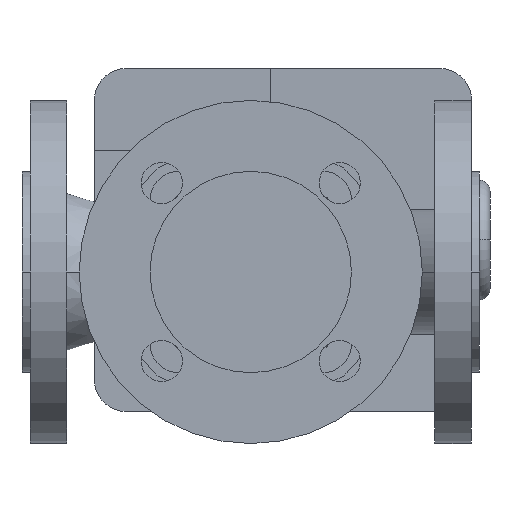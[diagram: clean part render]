
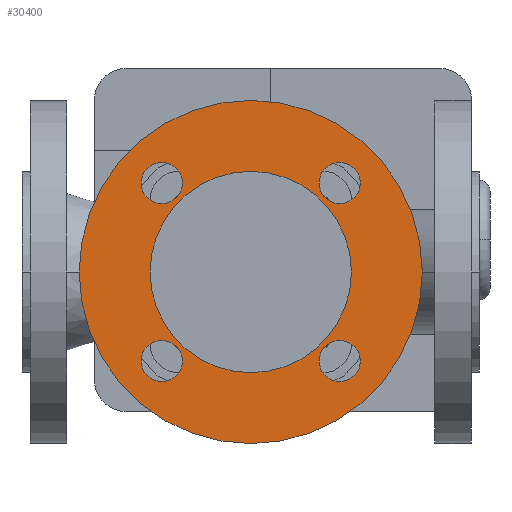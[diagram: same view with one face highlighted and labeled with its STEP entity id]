
A CAD part, front view. The second image highlights one B-rep face of the part: STEP entity #30400.
In plain terms, the highlighted planar face has unit normal (0, -1, 0).
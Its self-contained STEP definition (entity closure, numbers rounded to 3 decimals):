
#5250=CARTESIAN_POINT('',(56.,-86.5,0.));
#5260=VERTEX_POINT('',#5250);
#5310=CARTESIAN_POINT('',(100.,-86.5,0.));
#5320=DIRECTION('',(0.,-1.,0.));
#5330=DIRECTION('',(1.,0.,0.));
#5340=AXIS2_PLACEMENT_3D('',#5310,#5320,#5330);
#5350=CIRCLE('',#5340,44.);
#5360=CARTESIAN_POINT('',(144.,-86.5,0.));
#5370=VERTEX_POINT('',#5360);
#5380=EDGE_CURVE('',#5370,#5260,#5350,.T.);
#5690=CARTESIAN_POINT('',(175.,-86.5,0.));
#5700=VERTEX_POINT('',#5690);
#5730=CARTESIAN_POINT('',(100.,-86.5,0.));
#5740=DIRECTION('',(0.,1.,0.));
#5750=DIRECTION('',(1.,0.,0.));
#5760=AXIS2_PLACEMENT_3D('',#5730,#5740,#5750);
#5770=CIRCLE('',#5760,75.);
#5780=CARTESIAN_POINT('',(25.,-86.5,0.));
#5790=VERTEX_POINT('',#5780);
#5800=EDGE_CURVE('',#5790,#5700,#5770,.T.);
#6110=CARTESIAN_POINT('',(147.891,-86.5,-38.891));
#6120=VERTEX_POINT('',#6110);
#6280=CARTESIAN_POINT('',(129.891,-86.5,-38.891));
#6290=VERTEX_POINT('',#6280);
#6320=CARTESIAN_POINT('',(138.891,-86.5,-38.891));
#6330=DIRECTION('',(0.,1.,0.));
#6340=DIRECTION('',(1.,0.,0.));
#6350=AXIS2_PLACEMENT_3D('',#6320,#6330,#6340);
#6360=CIRCLE('',#6350,9.);
#6370=EDGE_CURVE('',#6290,#6120,#6360,.T.);
#6530=CARTESIAN_POINT('',(129.891,-86.5,38.891));
#6540=VERTEX_POINT('',#6530);
#6700=CARTESIAN_POINT('',(147.891,-86.5,38.891));
#6710=VERTEX_POINT('',#6700);
#6740=CARTESIAN_POINT('',(138.891,-86.5,38.891));
#6750=DIRECTION('',(0.,1.,0.));
#6760=DIRECTION('',(1.,0.,0.));
#6770=AXIS2_PLACEMENT_3D('',#6740,#6750,#6760);
#6780=CIRCLE('',#6770,9.);
#6790=EDGE_CURVE('',#6710,#6540,#6780,.T.);
#6950=CARTESIAN_POINT('',(52.109,-86.5,-38.891));
#6960=VERTEX_POINT('',#6950);
#7120=CARTESIAN_POINT('',(70.109,-86.5,-38.891));
#7130=VERTEX_POINT('',#7120);
#7160=CARTESIAN_POINT('',(61.109,-86.5,-38.891));
#7170=DIRECTION('',(0.,1.,0.));
#7180=DIRECTION('',(1.,0.,0.));
#7190=AXIS2_PLACEMENT_3D('',#7160,#7170,#7180);
#7200=CIRCLE('',#7190,9.);
#7210=EDGE_CURVE('',#7130,#6960,#7200,.T.);
#7370=CARTESIAN_POINT('',(70.109,-86.5,38.891));
#7380=VERTEX_POINT('',#7370);
#7410=CARTESIAN_POINT('',(61.109,-86.5,38.891));
#7420=DIRECTION('',(0.,1.,0.));
#7430=DIRECTION('',(1.,0.,0.));
#7440=AXIS2_PLACEMENT_3D('',#7410,#7420,#7430);
#7450=CIRCLE('',#7440,9.);
#7460=CARTESIAN_POINT('',(52.109,-86.5,38.891));
#7470=VERTEX_POINT('',#7460);
#7480=EDGE_CURVE('',#7380,#7470,#7450,.T.);
#30050=CARTESIAN_POINT('',(100.,-86.5,0.));
#30060=DIRECTION('',(0.,1.,0.));
#30070=DIRECTION('',(0.,0.,1.));
#30080=AXIS2_PLACEMENT_3D('',#30050,#30060,#30070);
#30090=PLANE('',#30080);
#30100=EDGE_CURVE('',#7470,#7380,#7450,.T.);
#30110=ORIENTED_EDGE('',*,*,#30100,.T.);
#30120=ORIENTED_EDGE('',*,*,#7480,.T.);
#30130=EDGE_LOOP('',(#30120,#30110));
#30140=FACE_BOUND('',#30130,.T.);
#30150=EDGE_CURVE('',#6960,#7130,#7200,.T.);
#30160=ORIENTED_EDGE('',*,*,#30150,.T.);
#30170=ORIENTED_EDGE('',*,*,#7210,.T.);
#30180=EDGE_LOOP('',(#30170,#30160));
#30190=FACE_BOUND('',#30180,.T.);
#30200=EDGE_CURVE('',#6540,#6710,#6780,.T.);
#30210=ORIENTED_EDGE('',*,*,#30200,.T.);
#30220=ORIENTED_EDGE('',*,*,#6790,.T.);
#30230=EDGE_LOOP('',(#30220,#30210));
#30240=FACE_BOUND('',#30230,.T.);
#30250=EDGE_CURVE('',#6120,#6290,#6360,.T.);
#30260=ORIENTED_EDGE('',*,*,#30250,.T.);
#30270=ORIENTED_EDGE('',*,*,#6370,.T.);
#30280=EDGE_LOOP('',(#30270,#30260));
#30290=FACE_BOUND('',#30280,.T.);
#30300=ORIENTED_EDGE('',*,*,#5800,.F.);
#30310=EDGE_CURVE('',#5700,#5790,#5770,.T.);
#30320=ORIENTED_EDGE('',*,*,#30310,.F.);
#30330=EDGE_LOOP('',(#30320,#30300));
#30340=FACE_OUTER_BOUND('',#30330,.T.);
#30350=EDGE_CURVE('',#5260,#5370,#5350,.T.);
#30360=ORIENTED_EDGE('',*,*,#30350,.F.);
#30370=ORIENTED_EDGE('',*,*,#5380,.F.);
#30380=EDGE_LOOP('',(#30370,#30360));
#30390=FACE_BOUND('',#30380,.T.);
#30400=ADVANCED_FACE('',(#30140,#30190,#30240,#30290,#30340,#30390),
#30090,.F.);
